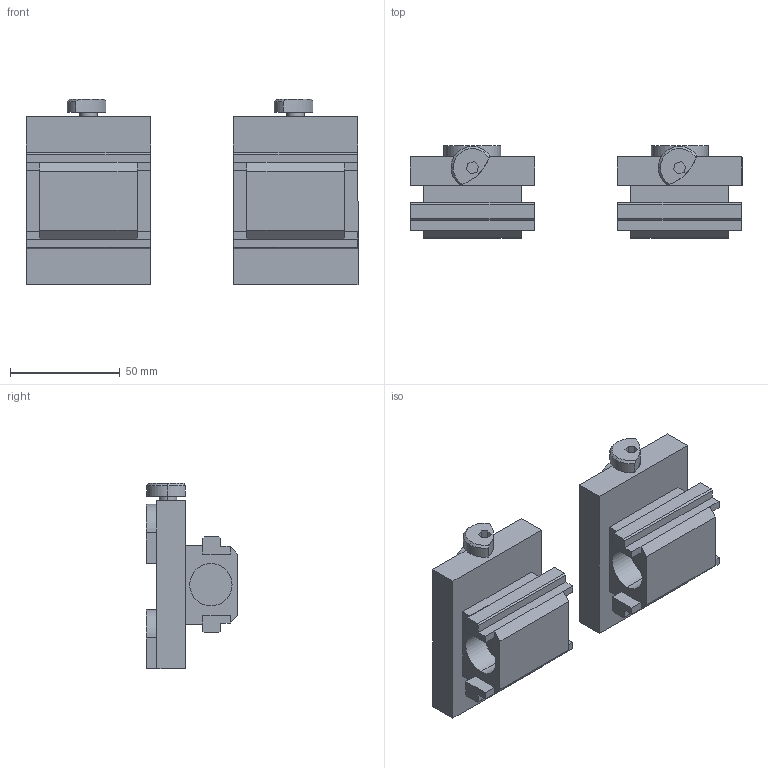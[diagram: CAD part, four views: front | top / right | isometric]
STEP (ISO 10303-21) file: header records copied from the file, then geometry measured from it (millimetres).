
FILE_DESCRIPTION (( 'STEP AP203' ), '1' );
FILE_NAME ('44771.STEP', '2016-11-29T08:02:47', ( '' ), ( '' ), 'SwSTEP 2.0', 'SolidWorks 2015', '' );
FILE_SCHEMA (( 'CONFIG_CONTROL_DESIGN' ));
Length unit declared in the file: millimetre
Products named in the file (2): 44771-01-02; 44771
Assembly tree (2 placements, depth 2):
  44771
    44771-01-02  x2
Bounding box: 151.57 x 42 x 84.6 mm (x, y, z)
Volume: 198493.6 mm3; surface area: 41468 mm2
Topology: 2 solids, 2 shells, 144 faces, 372 edges, 244 vertices
Faces by surface type: plane 118, cylinder 22, cone 4
Entity records: 2398 total; most frequent: CARTESIAN_POINT 391, ORIENTED_EDGE 372, DIRECTION 364, EDGE_CURVE 186, VECTOR 158, LINE 158, VERTEX_POINT 122, AXIS2_PLACEMENT_3D 103
